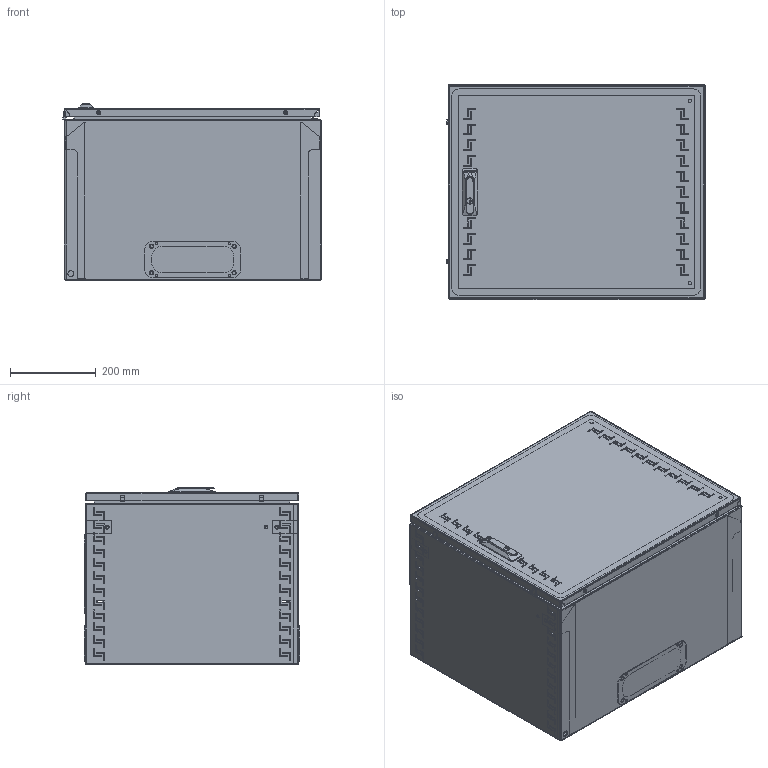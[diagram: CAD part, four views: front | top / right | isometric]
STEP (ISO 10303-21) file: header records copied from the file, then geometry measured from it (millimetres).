
FILE_DESCRIPTION (( 'STEP AP203' ), '1' );
FILE_NAME ('R5STI0940.STEP', '2019-07-16T11:51:38', ( '' ), ( '' ), 'SwSTEP 2.0', 'SolidWorks 2017', '' );
FILE_SCHEMA (( 'CONFIG_CONTROL_DESIGN' ));
Length unit declared in the file: millimetre
Products named in the file (38): M6x12-DIN 6921_stright; Handle Mesan (part 3); RB.0374.05.01.0_-00 (500x600); RB.0374.04.00.0 CÁ; RB.0374.01.01.0_-00 (500x600x400); AC00C401_AC00C401; 4.8x13 DIN 7981 (R5A07)_straight; AC00C398; RB.0048.02.01.0; RB.0374.01.02.0_-00 (500x600); MirrorRB.0374.00.01.0_-00 (400)<As Machined>; M6x10-A1100004_straight; RB.0374.05.00.0 捘_-00 (500x600); AC00C399; Ì6õ20-A5100001_straight; MirrorMirrorRB.0374.00.01.0_-00 (400)<As Machined><As Machined>; Handle 308 Mesan; AC00C112; M4x8 GOST 17475-80 (DIN 965)_straight; Ì6õ12-A5100231_straight; AC00C380; RB.0374.06.00.0 捘_-00 (500x600); PF 7,5x15 door STI_0500x0600; AC00C383; RB.0374.01.00.0 CÁ_-00 (500å600å400); R5STI0940; RB.0374.00.01.0_-00 (400); Handle Mesan (part 1); AC00C061_AC00C061; RB.0374.03.01.0; RB.0374.00.02.0_-00 (9U); Handle Mesan (part 2); M6-DIN 6923 (CM100600)_straight; RB.0374.03.00.0 CÁ; RB.0374.00.02.0 mirror_-04 (9U); Catch Mesan; RB.0374.02.00.0 C縫-00 (500x600x400); RB.0374.04.01.0
Assembly tree (100 placements, depth 4):
  R5STI0940
    RB.0374.02.00.0 C縫-00 (500x600x400)
      RB.0374.01.00.0 CÁ_-00 (500å600å400)
        RB.0374.01.01.0_-00 (500x600x400)
        RB.0374.01.02.0_-00 (500x600)
        Ì6õ20-A5100001_straight  x4
        Ì6õ12-A5100231_straight  x6
      RB.0374.03.00.0 CÁ
        RB.0374.03.01.0
        Ì6õ12-A5100231_straight  x4
      RB.0374.04.00.0 CÁ  x2
        RB.0374.04.01.0
        Ì6õ12-A5100231_straight
      RB.0048.02.01.0  x2
      AC00C399  x2
      M4x8 GOST 17475-80 (DIN 965)_straight  x4
      AC00C383  x2
      AC00C061_AC00C061  x2
      M6-DIN 6923 (CM100600)_straight  x12
    RB.0374.06.00.0 捘_-00 (500x600)
      RB.0374.05.00.0 捘_-00 (500x600)
        RB.0374.05.01.0_-00 (500x600)
        AC00C398  x2
        Ì6õ12-A5100231_straight  x2
      AC00C112  x4
      AC00C061_AC00C061  x2
      PF 7,5x15 door STI_0500x0600
      Handle 308 Mesan
        Handle Mesan (part 1)
        Handle Mesan (part 2)
        Catch Mesan
        Handle Mesan (part 3)
        4.8x13 DIN 7981 (R5A07)_straight  x3
        M6x10-A1100004_straight
    RB.0374.00.01.0_-00 (400)
    RB.0374.00.02.0_-00 (9U)
    RB.0374.00.02.0 mirror_-04 (9U)
    M6x12-DIN 6921_stright  x4
    M6-DIN 6923 (CM100600)_straight  x12
    AC00C401_AC00C401  x2
    MirrorRB.0374.00.01.0_-00 (400)<As Machined>  x2
    MirrorMirrorRB.0374.00.01.0_-00 (400)<As Machined><As Machined>
    AC00C380  x2
Bounding box: 603.87 x 503 x 414.97 mm (x, y, z)
Volume: 2567848.9 mm3; surface area: 3646560.8 mm2
Topology: 140 solids, 140 shells, 5135 faces, 13031 edges, 8276 vertices
Faces by surface type: plane 3031, cylinder 969, cone 473, bspline 462, torus 174, sphere 26
Entity records: 126734 total; most frequent: CARTESIAN_POINT 33623, ORIENTED_EDGE 18570, DIRECTION 16528, EDGE_CURVE 9285, VECTOR 7144, LINE 7144, VERTEX_POINT 6007, AXIS2_PLACEMENT_3D 4692
